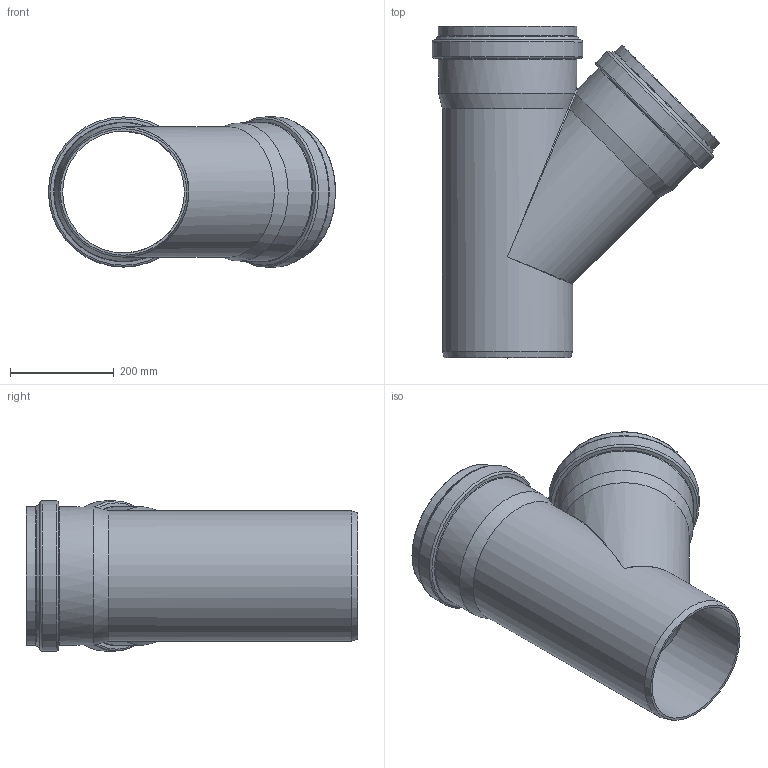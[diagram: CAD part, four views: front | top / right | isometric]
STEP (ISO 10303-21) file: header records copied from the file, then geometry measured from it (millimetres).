
FILE_DESCRIPTION(/* description */ (''),/* implementation_level */ '2;1');
FILE_NAME(/* name */ '772770z.stp',/* time_stamp */ '2025-09-17T08:55:58+02:00',/* author */ ('corinna'),/* organization */ (''),/* preprocessor_version */ 'ST-DEVELOPER v20',/* originating_system */ 'Autodesk Inventor 2024',/* authorisation */ '');
FILE_SCHEMA (('AUTOMOTIVE_DESIGN { 1 0 10303 214 3 1 1 }'));
Length unit declared in the file: millimetre
Products named in the file (1): 772770z
Bounding box: 552.53 x 638.4 x 289 mm (x, y, z)
Volume: 5450808.3 mm3; surface area: 1421472.2 mm2
Topology: 1 solids, 1 shells, 78 faces, 223 edges, 144 vertices
Faces by surface type: torus 28, cone 21, cylinder 18, bspline 6, plane 5
Full cylindrical faces by diameter (mm): 234.3 x2, 250.3 x1, 251.7 x2, 252.1 x4, 266.1 x2, 266.5 x2, 274.6 x2, 289 x2
Entity records: 3272 total; most frequent: CARTESIAN_POINT 1092, DIRECTION 515, ORIENTED_EDGE 438, AXIS2_PLACEMENT_3D 239, EDGE_CURVE 219, CIRCLE 152, VERTEX_POINT 144, EDGE_LOOP 83
